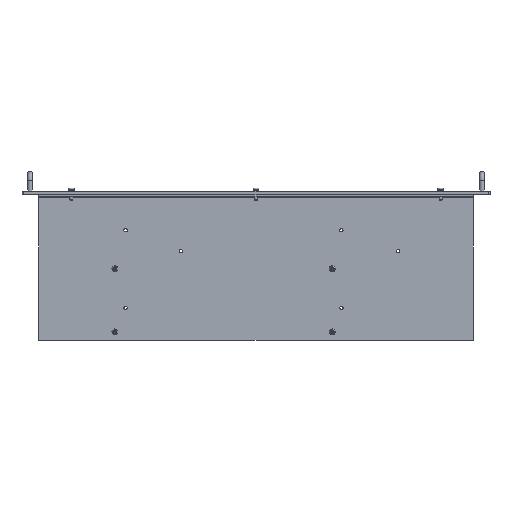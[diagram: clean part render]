
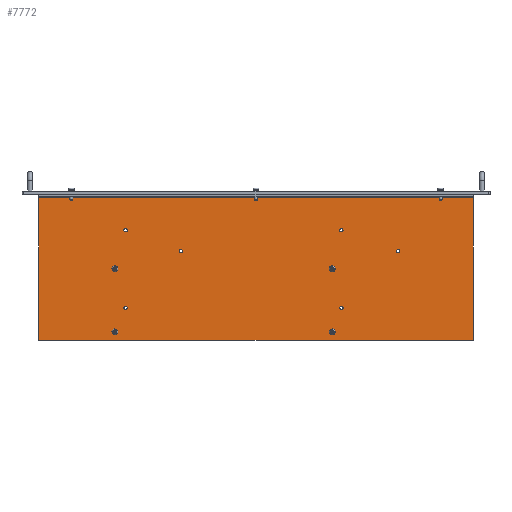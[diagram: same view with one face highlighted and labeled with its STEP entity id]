
A CAD part, left-side view. The second image highlights one B-rep face of the part: STEP entity #7772.
In plain terms, the highlighted planar face has unit normal (-1, 0, 0).
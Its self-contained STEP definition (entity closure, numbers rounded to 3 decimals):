
#452=LINE('',#12345,#1003);
#457=LINE('',#12355,#1008);
#462=LINE('',#12404,#1013);
#464=LINE('',#12410,#1015);
#1003=VECTOR('',#9941,10.);
#1008=VECTOR('',#9948,10.);
#1013=VECTOR('',#9997,10.);
#1015=VECTOR('',#10003,10.);
#1454=FACE_BOUND('',#2242,.T.);
#1455=FACE_BOUND('',#2243,.T.);
#1456=FACE_BOUND('',#2244,.T.);
#1457=FACE_BOUND('',#2245,.T.);
#1458=FACE_BOUND('',#2246,.T.);
#1459=FACE_BOUND('',#2247,.T.);
#1460=FACE_BOUND('',#2248,.T.);
#1461=FACE_BOUND('',#2249,.T.);
#1462=FACE_BOUND('',#2250,.T.);
#1463=FACE_BOUND('',#2251,.T.);
#1745=FACE_OUTER_BOUND('',#2241,.T.);
#2241=EDGE_LOOP('',(#5752,#5753,#5754,#5755));
#2242=EDGE_LOOP('',(#5756));
#2243=EDGE_LOOP('',(#5757));
#2244=EDGE_LOOP('',(#5758));
#2245=EDGE_LOOP('',(#5759));
#2246=EDGE_LOOP('',(#5760,#5761));
#2247=EDGE_LOOP('',(#5762,#5763));
#2248=EDGE_LOOP('',(#5764,#5765));
#2249=EDGE_LOOP('',(#5766,#5767));
#2250=EDGE_LOOP('',(#5768,#5769));
#2251=EDGE_LOOP('',(#5770,#5771));
#2497=CIRCLE('',#8016,3.);
#2526=CIRCLE('',#8078,3.);
#2649=CIRCLE('',#8361,3.);
#2678=CIRCLE('',#8423,3.);
#2704=CIRCLE('',#8465,1.75);
#2705=CIRCLE('',#8466,1.75);
#2706=CIRCLE('',#8471,1.75);
#2707=CIRCLE('',#8472,1.75);
#2708=CIRCLE('',#8474,1.75);
#2709=CIRCLE('',#8475,1.75);
#2710=CIRCLE('',#8477,1.75);
#2711=CIRCLE('',#8478,1.75);
#2712=CIRCLE('',#8481,1.75);
#2713=CIRCLE('',#8482,1.75);
#2714=CIRCLE('',#8484,1.75);
#2715=CIRCLE('',#8485,1.75);
#2894=VERTEX_POINT('',#11171);
#2939=VERTEX_POINT('',#11346);
#3133=VERTEX_POINT('',#12159);
#3178=VERTEX_POINT('',#12334);
#3180=VERTEX_POINT('',#12343);
#3181=VERTEX_POINT('',#12344);
#3185=VERTEX_POINT('',#12353);
#3207=VERTEX_POINT('',#12402);
#3236=VERTEX_POINT('',#12481);
#3237=VERTEX_POINT('',#12482);
#3238=VERTEX_POINT('',#12493);
#3239=VERTEX_POINT('',#12494);
#3240=VERTEX_POINT('',#12499);
#3241=VERTEX_POINT('',#12500);
#3242=VERTEX_POINT('',#12505);
#3243=VERTEX_POINT('',#12506);
#3244=VERTEX_POINT('',#12513);
#3245=VERTEX_POINT('',#12514);
#3246=VERTEX_POINT('',#12519);
#3247=VERTEX_POINT('',#12520);
#3549=EDGE_CURVE('',#2894,#2894,#2497,.T.);
#3622=EDGE_CURVE('',#2939,#2939,#2526,.T.);
#3961=EDGE_CURVE('',#3133,#3133,#2649,.T.);
#4034=EDGE_CURVE('',#3178,#3178,#2678,.T.);
#4038=EDGE_CURVE('',#3180,#3181,#452,.T.);
#4043=EDGE_CURVE('',#3185,#3180,#457,.T.);
#4068=EDGE_CURVE('',#3181,#3207,#462,.T.);
#4071=EDGE_CURVE('',#3185,#3207,#464,.T.);
#4107=EDGE_CURVE('',#3236,#3237,#2704,.T.);
#4108=EDGE_CURVE('',#3237,#3236,#2705,.T.);
#4113=EDGE_CURVE('',#3238,#3239,#2706,.T.);
#4114=EDGE_CURVE('',#3239,#3238,#2707,.T.);
#4116=EDGE_CURVE('',#3240,#3241,#2708,.T.);
#4117=EDGE_CURVE('',#3241,#3240,#2709,.T.);
#4119=EDGE_CURVE('',#3242,#3243,#2710,.T.);
#4120=EDGE_CURVE('',#3243,#3242,#2711,.T.);
#4123=EDGE_CURVE('',#3244,#3245,#2712,.T.);
#4124=EDGE_CURVE('',#3245,#3244,#2713,.T.);
#4126=EDGE_CURVE('',#3246,#3247,#2714,.T.);
#4127=EDGE_CURVE('',#3247,#3246,#2715,.T.);
#5752=ORIENTED_EDGE('',*,*,#4071,.T.);
#5753=ORIENTED_EDGE('',*,*,#4068,.F.);
#5754=ORIENTED_EDGE('',*,*,#4038,.F.);
#5755=ORIENTED_EDGE('',*,*,#4043,.F.);
#5756=ORIENTED_EDGE('',*,*,#3549,.T.);
#5757=ORIENTED_EDGE('',*,*,#3622,.T.);
#5758=ORIENTED_EDGE('',*,*,#3961,.F.);
#5759=ORIENTED_EDGE('',*,*,#4034,.F.);
#5760=ORIENTED_EDGE('',*,*,#4126,.T.);
#5761=ORIENTED_EDGE('',*,*,#4127,.T.);
#5762=ORIENTED_EDGE('',*,*,#4123,.T.);
#5763=ORIENTED_EDGE('',*,*,#4124,.T.);
#5764=ORIENTED_EDGE('',*,*,#4119,.T.);
#5765=ORIENTED_EDGE('',*,*,#4120,.T.);
#5766=ORIENTED_EDGE('',*,*,#4116,.T.);
#5767=ORIENTED_EDGE('',*,*,#4117,.T.);
#5768=ORIENTED_EDGE('',*,*,#4113,.T.);
#5769=ORIENTED_EDGE('',*,*,#4114,.T.);
#5770=ORIENTED_EDGE('',*,*,#4107,.T.);
#5771=ORIENTED_EDGE('',*,*,#4108,.T.);
#6938=PLANE('',#8486);
#7772=ADVANCED_FACE('',(#1745,#1454,#1455,#1456,#1457,#1458,#1459,#1460,
#1461,#1462,#1463),#6938,.T.);
#8016=AXIS2_PLACEMENT_3D('',#11172,#8895,#8896);
#8078=AXIS2_PLACEMENT_3D('',#11347,#9051,#9052);
#8361=AXIS2_PLACEMENT_3D('',#12160,#9773,#9774);
#8423=AXIS2_PLACEMENT_3D('',#12335,#9929,#9930);
#8465=AXIS2_PLACEMENT_3D('',#12483,#10060,#10061);
#8466=AXIS2_PLACEMENT_3D('',#12484,#10062,#10063);
#8471=AXIS2_PLACEMENT_3D('',#12495,#10076,#10077);
#8472=AXIS2_PLACEMENT_3D('',#12496,#10078,#10079);
#8474=AXIS2_PLACEMENT_3D('',#12501,#10083,#10084);
#8475=AXIS2_PLACEMENT_3D('',#12502,#10085,#10086);
#8477=AXIS2_PLACEMENT_3D('',#12507,#10090,#10091);
#8478=AXIS2_PLACEMENT_3D('',#12508,#10092,#10093);
#8481=AXIS2_PLACEMENT_3D('',#12515,#10100,#10101);
#8482=AXIS2_PLACEMENT_3D('',#12516,#10102,#10103);
#8484=AXIS2_PLACEMENT_3D('',#12521,#10107,#10108);
#8485=AXIS2_PLACEMENT_3D('',#12522,#10109,#10110);
#8486=AXIS2_PLACEMENT_3D('',#12524,#10112,#10113);
#8895=DIRECTION('center_axis',(1.,0.,0.));
#8896=DIRECTION('ref_axis',(0.,1.,0.));
#9051=DIRECTION('center_axis',(1.,0.,0.));
#9052=DIRECTION('ref_axis',(0.,1.,0.));
#9773=DIRECTION('center_axis',(-1.,0.,0.));
#9774=DIRECTION('ref_axis',(0.,1.,0.));
#9929=DIRECTION('center_axis',(-1.,0.,0.));
#9930=DIRECTION('ref_axis',(0.,1.,0.));
#9941=DIRECTION('',(0.,1.,0.));
#9948=DIRECTION('',(0.,0.,-1.));
#9997=DIRECTION('',(0.,0.,1.));
#10003=DIRECTION('',(0.,1.,0.));
#10060=DIRECTION('center_axis',(1.,0.,0.));
#10061=DIRECTION('ref_axis',(0.,1.,0.));
#10062=DIRECTION('center_axis',(1.,0.,0.));
#10063=DIRECTION('ref_axis',(0.,1.,0.));
#10076=DIRECTION('center_axis',(1.,0.,0.));
#10077=DIRECTION('ref_axis',(0.,1.,0.));
#10078=DIRECTION('center_axis',(1.,0.,0.));
#10079=DIRECTION('ref_axis',(0.,1.,0.));
#10083=DIRECTION('center_axis',(1.,0.,0.));
#10084=DIRECTION('ref_axis',(0.,1.,0.));
#10085=DIRECTION('center_axis',(1.,0.,0.));
#10086=DIRECTION('ref_axis',(0.,1.,0.));
#10090=DIRECTION('center_axis',(1.,0.,0.));
#10091=DIRECTION('ref_axis',(0.,1.,0.));
#10092=DIRECTION('center_axis',(1.,0.,0.));
#10093=DIRECTION('ref_axis',(0.,1.,0.));
#10100=DIRECTION('center_axis',(1.,0.,0.));
#10101=DIRECTION('ref_axis',(0.,1.,0.));
#10102=DIRECTION('center_axis',(1.,0.,0.));
#10103=DIRECTION('ref_axis',(0.,1.,0.));
#10107=DIRECTION('center_axis',(1.,0.,0.));
#10108=DIRECTION('ref_axis',(0.,1.,0.));
#10109=DIRECTION('center_axis',(1.,0.,0.));
#10110=DIRECTION('ref_axis',(0.,1.,0.));
#10112=DIRECTION('center_axis',(-1.,0.,0.));
#10113=DIRECTION('ref_axis',(0.,1.,0.));
#11171=CARTESIAN_POINT('',(-28.55,142.5,-141.25));
#11172=CARTESIAN_POINT('Origin',(-28.55,145.5,-141.25));
#11346=CARTESIAN_POINT('',(-28.55,142.5,-76.25));
#11347=CARTESIAN_POINT('Origin',(-28.55,145.5,-76.25));
#12159=CARTESIAN_POINT('',(-28.55,-81.5,-141.25));
#12160=CARTESIAN_POINT('Origin',(-28.55,-78.5,-141.25));
#12334=CARTESIAN_POINT('',(-28.55,-81.5,-76.25));
#12335=CARTESIAN_POINT('Origin',(-28.55,-78.5,-76.25));
#12343=CARTESIAN_POINT('',(-28.55,-224.,-150.));
#12344=CARTESIAN_POINT('',(-28.55,224.,-150.));
#12345=CARTESIAN_POINT('',(-28.55,-224.,-150.));
#12353=CARTESIAN_POINT('',(-28.55,-224.,-3.));
#12355=CARTESIAN_POINT('',(-28.55,-224.,0.));
#12402=CARTESIAN_POINT('',(-28.55,224.,-3.));
#12404=CARTESIAN_POINT('',(-28.55,224.,-150.));
#12410=CARTESIAN_POINT('',(-28.55,112.,-3.));
#12481=CARTESIAN_POINT('',(-28.55,136.25,-36.5));
#12482=CARTESIAN_POINT('',(-28.55,132.75,-36.5));
#12483=CARTESIAN_POINT('Origin',(-28.55,134.5,-36.5));
#12484=CARTESIAN_POINT('Origin',(-28.55,134.5,-36.5));
#12493=CARTESIAN_POINT('',(-28.55,-86.25,-36.5));
#12494=CARTESIAN_POINT('',(-28.55,-89.75,-36.5));
#12495=CARTESIAN_POINT('Origin',(-28.55,-88.,-36.5));
#12496=CARTESIAN_POINT('Origin',(-28.55,-88.,-36.5));
#12499=CARTESIAN_POINT('',(-28.55,-144.75,-58.));
#12500=CARTESIAN_POINT('',(-28.55,-148.25,-58.));
#12501=CARTESIAN_POINT('Origin',(-28.55,-146.5,-58.));
#12502=CARTESIAN_POINT('Origin',(-28.55,-146.5,-58.));
#12505=CARTESIAN_POINT('',(-28.55,-86.25,-116.5));
#12506=CARTESIAN_POINT('',(-28.55,-89.75,-116.5));
#12507=CARTESIAN_POINT('Origin',(-28.55,-88.,-116.5));
#12508=CARTESIAN_POINT('Origin',(-28.55,-88.,-116.5));
#12513=CARTESIAN_POINT('',(-28.55,136.25,-116.5));
#12514=CARTESIAN_POINT('',(-28.55,132.75,-116.5));
#12515=CARTESIAN_POINT('Origin',(-28.55,134.5,-116.5));
#12516=CARTESIAN_POINT('Origin',(-28.55,134.5,-116.5));
#12519=CARTESIAN_POINT('',(-28.55,79.25,-58.));
#12520=CARTESIAN_POINT('',(-28.55,75.75,-58.));
#12521=CARTESIAN_POINT('Origin',(-28.55,77.5,-58.));
#12522=CARTESIAN_POINT('Origin',(-28.55,77.5,-58.));
#12524=CARTESIAN_POINT('Origin',(-28.55,0.,
-75.));
